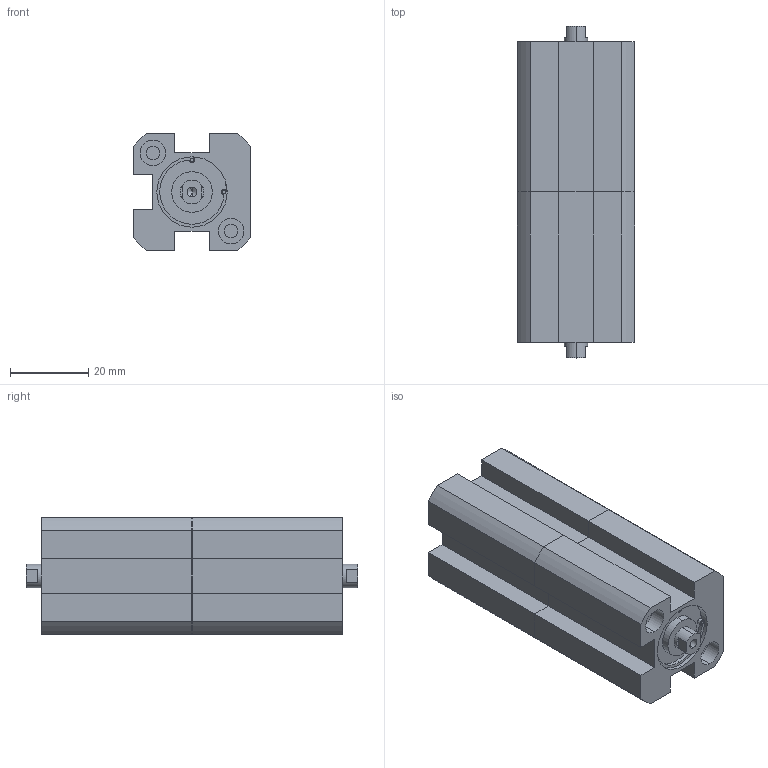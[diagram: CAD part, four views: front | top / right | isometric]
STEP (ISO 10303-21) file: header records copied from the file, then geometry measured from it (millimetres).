
FILE_DESCRIPTION (( 'STEP AP203' ), '1' );
FILE_NAME ('XGD7-16-10-10.STEP', '2016-08-05T01:42:12', ( '' ), ( '' ), 'SwSTEP 2.0', 'SolidWorks 2014', '' );
FILE_SCHEMA (( 'CONFIG_CONTROL_DESIGN' ));
Length unit declared in the file: millimetre
Products named in the file (2): XGD7-16-10-10; XG#2-16-10
Assembly tree (2 placements, depth 2):
  XGD7-16-10-10
    XG#2-16-10  x2
Bounding box: 30 x 85 x 30 mm (x, y, z)
Volume: 54214.9 mm3; surface area: 17113.1 mm2
Topology: 2 solids, 2 shells, 154 faces, 382 edges, 244 vertices
Faces by surface type: cylinder 78, plane 64, cone 12
Entity records: 2506 total; most frequent: DIRECTION 432, CARTESIAN_POINT 389, ORIENTED_EDGE 370, EDGE_CURVE 185, AXIS2_PLACEMENT_3D 165, VERTEX_POINT 122, LINE 102, VECTOR 102
